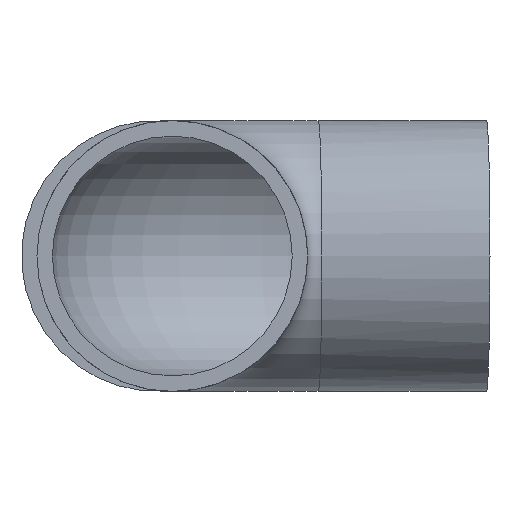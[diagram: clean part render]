
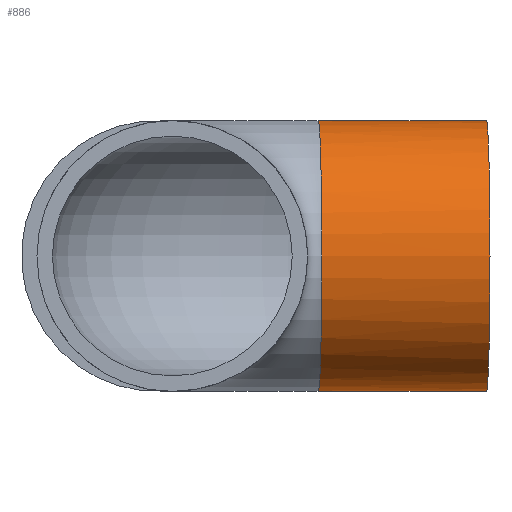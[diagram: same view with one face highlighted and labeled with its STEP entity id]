
A CAD part, front view. The second image highlights one B-rep face of the part: STEP entity #886.
In plain terms, the highlighted cylindrical face has radius 28 mm (diameter 56 mm), a full revolution.
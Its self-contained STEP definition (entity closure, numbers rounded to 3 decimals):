
#32=FACE_BOUND($,#183,.T.);
#113=FACE_OUTER_BOUND($,#182,.T.);
#182=EDGE_LOOP($,(#763,#764,#765,#766));
#183=EDGE_LOOP($,(#767));
#266=CIRCLE($,#894,28.);
#292=CIRCLE($,#958,28.);
#301=CIRCLE($,#976,28.);
#302=LINE($,#1164,#306);
#303=LINE($,#1168,#307);
#306=VECTOR($,#982,1.12);
#307=VECTOR($,#985,1.12);
#310=VERTEX_POINT($,#1162);
#311=VERTEX_POINT($,#1163);
#312=VERTEX_POINT($,#1165);
#313=VERTEX_POINT($,#1167);
#401=VERTEX_POINT($,#2410);
#402=EDGE_CURVE($,#310,#311,#302,.T.);
#404=EDGE_CURVE($,#313,#312,#303,.T.);
#408=EDGE_CURVE($,#312,#310,#266,.T.);
#512=EDGE_CURVE($,#313,#311,#292,.T.);
#523=EDGE_CURVE($,#401,#401,#301,.T.);
#763=ORIENTED_EDGE($,*,*,#402,.T.);
#764=ORIENTED_EDGE($,*,*,#512,.F.);
#765=ORIENTED_EDGE($,*,*,#404,.T.);
#766=ORIENTED_EDGE($,*,*,#408,.T.);
#767=ORIENTED_EDGE($,*,*,#523,.T.);
#785=CYLINDRICAL_SURFACE($,#977,28.);
#886=ADVANCED_FACE($,(#113,#32),#785,.T.);
#894=AXIS2_PLACEMENT_3D($,#1181,#990,#991);
#958=AXIS2_PLACEMENT_3D($,#2383,#1118,#1119);
#976=AXIS2_PLACEMENT_3D($,#2411,#1156,#1157);
#977=AXIS2_PLACEMENT_3D($,#2412,#1158,#1159);
#982=DIRECTION($,(-1.,-0.026,0.));
#985=DIRECTION($,(1.,0.026,0.));
#990=DIRECTION('center_axis',(1.,0.026,0.));
#991=DIRECTION('ref_axis',(0.026,-1.,0.));
#1118=DIRECTION('center_axis',(-1.,-0.026,0.));
#1119=DIRECTION('ref_axis',(0.026,-1.,0.));
#1156=DIRECTION('center_axis',(-1.,-0.026,0.));
#1157=DIRECTION('ref_axis',(0.026,-1.,0.));
#1158=DIRECTION('center_axis',(-1.,-0.026,0.));
#1159=DIRECTION('ref_axis',(0.026,-1.,0.));
#1162=CARTESIAN_POINT('',(31.266,67.419,27.954));
#1163=CARTESIAN_POINT('',(30.147,67.39,27.954));
#1164=CARTESIAN_POINT($,(30.147,67.39,27.954));
#1165=CARTESIAN_POINT('',(31.266,67.419,-27.954));
#1167=CARTESIAN_POINT('',(30.147,67.39,-27.954));
#1168=CARTESIAN_POINT($,(30.147,67.39,-27.954));
#1181=CARTESIAN_POINT('Origin',(31.308,65.82,0.));
#2383=CARTESIAN_POINT('Origin',(30.189,65.791,0.));
#2410=CARTESIAN_POINT('',(65.711,38.711,0.));
#2411=CARTESIAN_POINT('Origin',(64.978,66.702,0.));
#2412=CARTESIAN_POINT('Origin',(47.583,66.246,0.));
